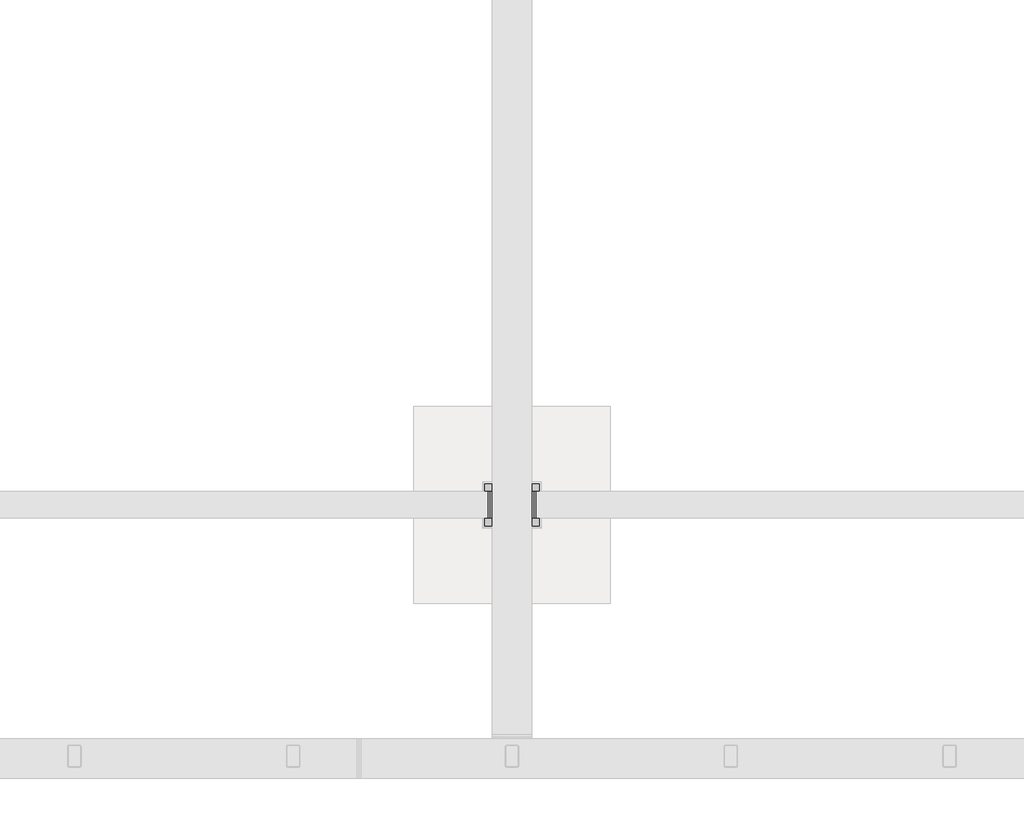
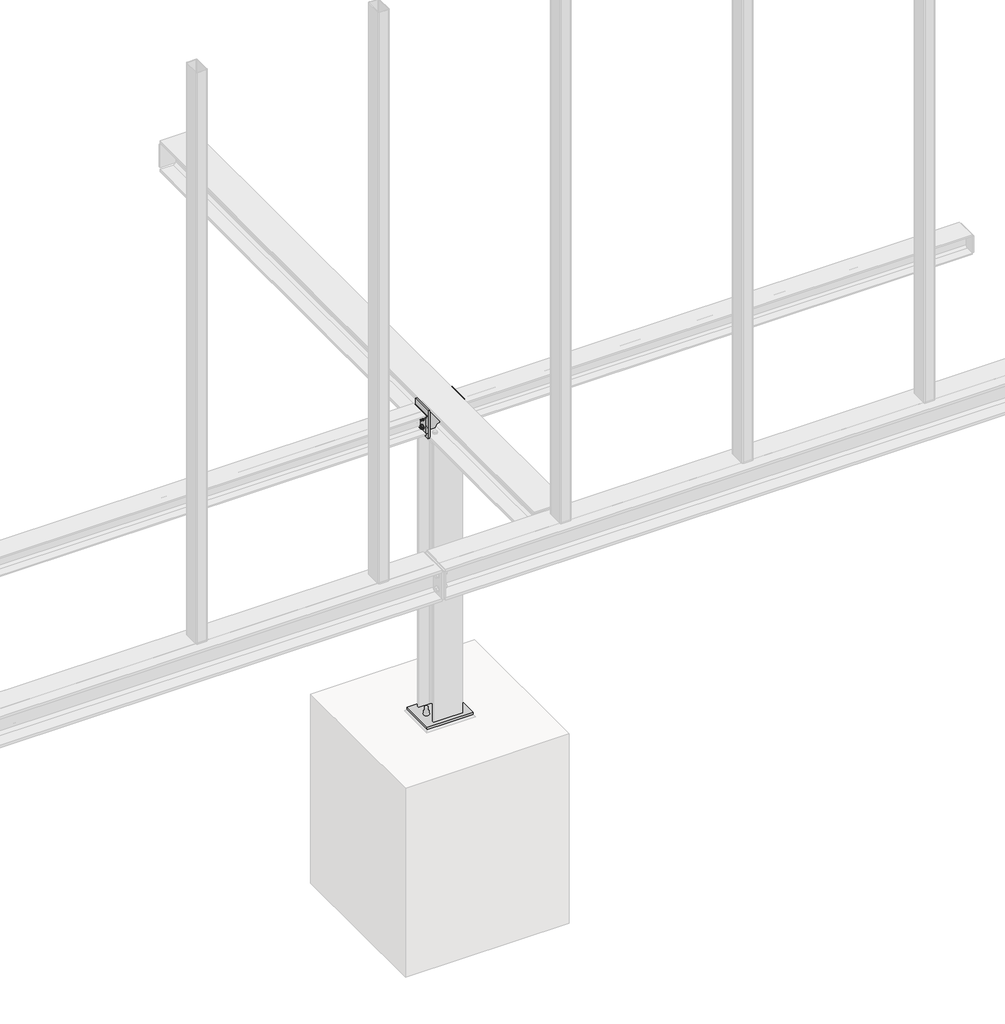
# One storey, part 10 of 31: 10 proxies.
"""IFC4 building model written with IfcOpenShell, lengths in millimetres."""

import ifcopenshell
import ifcopenshell.guid

model = None  # the IFC model being written
_history = None  # IfcOwnerHistory: only IFC2X3 demands one
_inside = {}  # id of a spatial element -> (the spatial element, [elements in it])
_under = {}  # id of a project, library or spatial element -> (it, [spatial elements below it])
_declared = {}  # id of a project -> (the project, [libraries it declares])
_typed = {}  # id of a type object -> (the type object, [elements of that type])
_made_of = {}  # id of a material, layer set ... -> (it, [elements and type objects made of it])


def new_model(schema):
    """Start an empty IFC model of exactly this schema.

    Asked for "IFC4X3", IfcOpenShell would pick the latest addendum, in which some entities
    have other attributes; the version numbers below select the first issue.
    IFC2X3 requires an IfcOwnerHistory on every rooted entity: one is made here for all.
    """
    global model, _history
    if schema == "IFC4X3":
        model = ifcopenshell.file(schema_version=(4, 3, 0, 0))
    else:
        model = ifcopenshell.file(schema=schema)
    _inside.clear()
    _under.clear()
    _declared.clear()
    _typed.clear()
    _made_of.clear()
    _history = None
    if model.schema == "IFC2X3":
        org = make("IfcOrganization", Name="unknown")
        user = make(
            "IfcPersonAndOrganization",
            ThePerson=make("IfcPerson", FamilyName="unknown"),
            TheOrganization=org,
        )
        app = make(
            "IfcApplication",
            ApplicationDeveloper=org,
            Version="unknown",
            ApplicationFullName="unknown",
            ApplicationIdentifier="unknown",
        )
        _history = make(
            "IfcOwnerHistory",
            OwningUser=user,
            OwningApplication=app,
            ChangeAction="ADDED",
            CreationDate=0,
        )
    return model


def make(cls, **values):
    """One entity of the class cls with the attributes given. An attribute that is None is left unset."""
    return model.create_entity(
        cls, **{name: value for name, value in values.items() if value is not None}
    )


def rooted(cls, **values):
    """An entity with a GlobalId (a new one), such as an element, a storey or a relation."""
    return make(cls, GlobalId=ifcopenshell.guid.new(), OwnerHistory=_history, **values)


def si_unit(unit_type, name, prefix=None):
    """IfcSIUnit, for example si_unit("LENGTHUNIT", "METRE", prefix="MILLI")."""
    return make("IfcSIUnit", UnitType=unit_type, Prefix=prefix, Name=name)


def assignment(units):
    """IfcUnitAssignment: the units of a project."""
    return None if units is None else make("IfcUnitAssignment", Units=units)


def point(xyz):
    """IfcCartesianPoint."""
    return None if xyz is None else make("IfcCartesianPoint", Coordinates=xyz)


def direction(xyz):
    """IfcDirection."""
    return None if xyz is None else make("IfcDirection", DirectionRatios=xyz)


def frame(location, z_axis=None, x_axis=None):
    """IfcAxis2Placement3D, a coordinate frame: its origin and axes. An axis left out is left unset."""
    return make(
        "IfcAxis2Placement3D",
        Location=point(location),
        Axis=direction(z_axis),
        RefDirection=direction(x_axis),
    )


def frame_2d(location, x_axis=None):
    """IfcAxis2Placement2D, a coordinate frame in the plane: its origin and x axis."""
    return make(
        "IfcAxis2Placement2D", Location=point(location), RefDirection=direction(x_axis)
    )


def origin():
    """The frame at (0, 0, 0) with its axes left unset."""
    return frame((0.0, 0.0, 0.0))


def place(relative_to, where):
    """IfcLocalPlacement: puts the frame where relative to a parent placement (None: the world)."""
    return make(
        "IfcLocalPlacement", PlacementRelTo=relative_to, RelativePlacement=where
    )


def context(
    kind, dimensions, precision=None, world=None, true_north=None, identifier=None
):
    """IfcGeometricRepresentationContext, for example the 3D "Model" context."""
    return make(
        "IfcGeometricRepresentationContext",
        ContextIdentifier=identifier,
        ContextType=kind,
        CoordinateSpaceDimension=dimensions,
        Precision=precision,
        WorldCoordinateSystem=world,
        TrueNorth=true_north,
    )


def project(units=None, contexts=None):
    """IfcProject with its units and contexts."""
    return rooted(
        "IfcProject",
        Name="project",
        RepresentationContexts=contexts,
        UnitsInContext=assignment(units),
    )


def spatial(cls, under=None, at=None, **own):
    """A site, building, storey or space (cls), placed at a placement, below another one or the project."""
    s = rooted(cls, ObjectPlacement=at, **own)
    if under is not None:
        _under.setdefault(under.id(), (under, []))[1].append(s)
    return s


def polyline(points):
    """IfcPolyline through the points."""
    return make("IfcPolyline", Points=[point(p) for p in points])


def circle_curve(where, radius):
    """IfcCircle in the frame where."""
    return make("IfcCircle", Position=where, Radius=radius)


def trimmed(basis, trim1, trim2, sense, master):
    """IfcTrimmedCurve: the piece of a basis curve between two trims."""
    return make(
        "IfcTrimmedCurve",
        BasisCurve=basis,
        Trim1=trim1,
        Trim2=trim2,
        SenseAgreement=sense,
        MasterRepresentation=master,
    )


def segment(curve, same_sense, transition):
    """IfcCompositeCurveSegment."""
    return make(
        "IfcCompositeCurveSegment",
        Transition=transition,
        SameSense=same_sense,
        ParentCurve=curve,
    )


def composite_curve(segments, self_intersect=None):
    """IfcCompositeCurve: segments joined end to end."""
    return make("IfcCompositeCurve", Segments=segments, SelfIntersect=self_intersect)


def outline(outer, holes=None, kind="AREA"):
    """IfcArbitraryClosedProfileDef: a profile drawn as a closed curve; with holes, ...WithVoids."""
    if holes is None:
        return make("IfcArbitraryClosedProfileDef", ProfileType=kind, OuterCurve=outer)
    return make(
        "IfcArbitraryProfileDefWithVoids",
        ProfileType=kind,
        OuterCurve=outer,
        InnerCurves=holes,
    )


def extrude(swept, where, along, depth):
    """IfcExtrudedAreaSolid: the profile swept, set in the frame where, extruded along a direction by depth."""
    return make(
        "IfcExtrudedAreaSolid",
        SweptArea=swept,
        Position=where,
        ExtrudedDirection=direction(along),
        Depth=depth,
    )


def shape(context_of_items, identifier, shape_type, items):
    """IfcShapeRepresentation: the items that make up one representation, for example the "Body"."""
    return make(
        "IfcShapeRepresentation",
        ContextOfItems=context_of_items,
        RepresentationIdentifier=identifier,
        RepresentationType=shape_type,
        Items=items,
    )


def made_of(thing, what):
    """Note that an element or type object is made of a material, layer set ...; save() writes the relation."""
    if what is not None:
        _made_of.setdefault(what.id(), (what, []))[1].append(thing)
    return thing


def element(
    cls,
    number,
    at=None,
    inside=None,
    cuts=None,
    type_object=None,
    material=None,
    context=None,
    identifier="Body",
    shape_type=None,
    held_by="IfcProductDefinitionShape",
    body=None,
    shapes=None,
    **own,
):
    """One element of the class cls, such as IfcWall. Its Tag is "e" and its number.

    at: its placement. inside: the storey or other place that contains it. cuts: it is an
    opening in that element (IfcRelVoidsElement). A single representation is given by context,
    identifier, shape_type and body (its items); several are given by shapes. held_by: the class
    of the entity that holds the representations. save() writes the other relations.
    """
    e = rooted(cls, Tag="e%d" % number, ObjectPlacement=at, **own)
    if body is not None:
        shapes = [shape(context, identifier, shape_type, body)]
    if shapes is not None:
        e.Representation = make(held_by, Representations=shapes)
    if inside is not None:
        _inside.setdefault(inside.id(), (inside, []))[1].append(e)
    if cuts is not None:
        rooted(
            "IfcRelVoidsElement", RelatingBuildingElement=cuts, RelatedOpeningElement=e
        )
    if type_object is not None:
        _typed.setdefault(type_object.id(), (type_object, []))[1].append(e)
    return made_of(e, material)


def aggregate(whole, parts):
    """IfcRelAggregates: a whole, such as a stair, and the parts it consists of."""
    return rooted("IfcRelAggregates", RelatingObject=whole, RelatedObjects=parts)


def save(model, path):
    """Write the relations noted so far, then the file.

    IfcRelAggregates (storeys below a building ...), IfcRelContainedInSpatialStructure (elements
    in a storey), IfcRelDefinesByType, IfcRelAssociatesMaterial and IfcRelDeclares: one each for
    every whole, place, type object, material and project.
    """
    for whole, parts in _under.values():
        aggregate(whole, parts)
    for where, things in _inside.values():
        rooted(
            "IfcRelContainedInSpatialStructure",
            RelatedElements=things,
            RelatingStructure=where,
        )
    for kind, things in _typed.values():
        rooted("IfcRelDefinesByType", RelatedObjects=things, RelatingType=kind)
    for what, things in _made_of.values():
        rooted("IfcRelAssociatesMaterial", RelatedObjects=things, RelatingMaterial=what)
    for by, libraries in _declared.values():
        rooted("IfcRelDeclares", RelatingContext=by, RelatedDefinitions=libraries)
    model.write(path)


model = new_model("IFC4")

# Units and contexts
model_context = context("Model", 3, world=origin())
ifc_project = project(units=[si_unit("LENGTHUNIT", "METRE", prefix="MILLI")], contexts=[model_context])

# Site, building, storey
site = spatial("IfcSite", under=ifc_project)
building = spatial("IfcBuilding", under=site)
storey = spatial("IfcBuildingStorey", under=building, Name="Základy", Elevation=-1200.0)

# Proxies
placement = place(None, origin())
element("IfcBuildingElementProxy", 1, Name="PLECH", ObjectType="PLECH", at=placement, inside=storey, context=model_context, shape_type="SweptSolid", body=[
    extrude(outline(polyline([(8940.0, 1200.0), (8940.0, 1320.0), (8950.0, 1320.0), (8950.0, 1200.0), (8940.0, 1200.0)])), frame((0.0, 0.0, -299.0), z_axis=(0.0, 0.0, 1.0), x_axis=(1.0, 0.0, 0.0)), (0.0, 0.0, 1.0), 98.0),
])
element("IfcBuildingElementProxy", 2, Name="PLECH", ObjectType="PLECH", at=placement, inside=storey, context=model_context, shape_type="SweptSolid", body=[
    extrude(outline(polyline([(9150.0, 1200.0), (9150.0, 1320.0), (9160.0, 1320.0), (9160.0, 1200.0), (9150.0, 1200.0)])), frame((0.0, 0.0, -299.0), z_axis=(0.0, 0.0, 1.0), x_axis=(1.0, 0.0, 0.0)), (0.0, 0.0, 1.0), 98.0),
])
element("IfcBuildingElementProxy", 3, Name="PLECH", ObjectType="PLECH", at=placement, inside=storey, context=model_context, shape_type="SweptSolid", body=[
    extrude(outline(polyline([(8950.0, 1200.0), (8950.0, 1320.0), (8960.0, 1320.0), (8960.0, 1200.0), (8950.0, 1200.0)])), frame((0.0, 0.0, -332.0), z_axis=(0.0, 0.0, 1.0), x_axis=(1.0, 0.0, 0.0)), (0.0, 0.0, 1.0), 164.0),
])
element("IfcBuildingElementProxy", 4, Name="PLECH", ObjectType="PLECH", at=placement, inside=storey, context=model_context, shape_type="SweptSolid", body=[
    extrude(outline(polyline([(9140.0, 1200.0), (9140.0, 1320.0), (9150.0, 1320.0), (9150.0, 1200.0), (9140.0, 1200.0)])), frame((0.0, 0.0, -332.0), z_axis=(0.0, 0.0, 1.0), x_axis=(1.0, 0.0, 0.0)), (0.0, 0.0, 1.0), 164.0),
])
element("IfcBuildingElementProxy", 5, Name="PLECH", ObjectType="PLECH", at=placement, inside=storey, context=model_context, shape_type="SweptSolid", body=[
    extrude(outline(composite_curve([segment(polyline([(-174.0, 9140.0), (-174.0, 9079.5)]), True, "CONTINUOUS"), segment(trimmed(circle_curve(frame_2d((-174.0, 9054.5)), 25.0), [point((-174.0, 9079.5))], [point((-199.0, 9054.5))], True, "CARTESIAN"), True, "CONTINUOUS"), segment(polyline([(-199.0, 9054.5), (-301.0, 9054.5)]), True, "CONTINUOUS"), segment(trimmed(circle_curve(frame_2d((-326.0, 9054.5)), 25.0), [point((-301.0, 9054.5))], [point((-326.0, 9079.5))], True, "CARTESIAN"), True, "CONTINUOUS"), segment(polyline([(-326.0, 9079.5), (-326.0, 9140.0), (-174.0, 9140.0)]), True, "CONTINUOUS")], self_intersect=False)), frame((0.0, 1256.0, 0.0), z_axis=(0.0, 1.0, 0.0), x_axis=(0.0, 0.0, 1.0)), (0.0, 0.0, 1.0), 8.0),
])
element("IfcBuildingElementProxy", 6, Name="PLECH", ObjectType="PLECH", at=placement, inside=storey, context=model_context, shape_type="SweptSolid", body=[
    extrude(outline(composite_curve([segment(polyline([(-174.0, 8960.0), (-326.0, 8960.0), (-326.0, 9020.5)]), True, "CONTINUOUS"), segment(trimmed(circle_curve(frame_2d((-326.0, 9045.5)), 25.0), [point((-326.0, 9020.5))], [point((-301.0, 9045.5))], True, "CARTESIAN"), True, "CONTINUOUS"), segment(polyline([(-301.0, 9045.5), (-199.0, 9045.5)]), True, "CONTINUOUS"), segment(trimmed(circle_curve(frame_2d((-174.0, 9045.5)), 25.0), [point((-199.0, 9045.5))], [point((-174.0, 9020.5))], True, "CARTESIAN"), True, "CONTINUOUS"), segment(polyline([(-174.0, 9020.5), (-174.0, 8960.0)]), True, "CONTINUOUS")], self_intersect=False)), frame((0.0, 1256.0, 0.0), z_axis=(0.0, 1.0, 0.0), x_axis=(0.0, 0.0, 1.0)), (0.0, 0.0, 1.0), 8.0),
])
element("IfcBuildingElementProxy", 7, Name="PLECH", ObjectType="PLECH", at=placement, inside=storey, context=model_context, shape_type="SweptSolid", body=[
    extrude(outline(polyline([(9175.0, 1356.0), (9175.0, 1164.0), (8925.0, 1164.0), (8925.0, 1356.0), (9175.0, 1356.0)])), frame((0.0, 0.0, -1990.0), z_axis=(0.0, 0.0, 1.0), x_axis=(1.0, 0.0, 0.0)), (0.0, 0.0, 1.0), 15.0),
])
element("IfcBuildingElementProxy", 8, Name="Bolt assembly", ObjectType="Bolt assembly", at=placement, inside=storey, context=model_context, shape_type="SweptSolid", body=[
    extrude(outline(composite_curve([segment(trimmed(circle_curve(frame_2d((1230.0, -225.0)), 6.5), [point((1230.0, -231.5))], [point((1230.0, -218.5))], False, "CARTESIAN"), True, "CONTINUOUS"), segment(trimmed(circle_curve(frame_2d((1230.0, -225.0)), 6.5), [point((1230.0, -218.5))], [point((1230.0, -231.5))], False, "CARTESIAN"), True, "CONTINUOUS")], self_intersect=False)), frame((8949.9, 0.0, 0.0), z_axis=(1.0, 0.0, 0.0), x_axis=(0.0, 1.0, 0.0)), (0.0, 0.0, 1.0), 10.0),
    extrude(outline(polyline([(1230.0, -235.3923048), (1221.0, -230.1961524), (1221.0, -219.8038476), (1230.0, -214.6076952), (1239.0, -219.8038476), (1239.0, -230.1961524), (1230.0, -235.3923048)])), frame((8962.5, 0.0, 0.0), z_axis=(1.0, 0.0, 0.0), x_axis=(0.0, 1.0, 0.0)), (0.0, 0.0, 1.0), 7.5),
    extrude(outline(composite_curve([segment(trimmed(circle_curve(frame_2d((1230.0, -225.0)), 6.0), [point((1230.0, -231.0))], [point((1230.0, -219.0))], False, "CARTESIAN"), True, "CONTINUOUS"), segment(trimmed(circle_curve(frame_2d((1230.0, -225.0)), 6.0), [point((1230.0, -219.0))], [point((1230.0, -231.0))], False, "CARTESIAN"), True, "CONTINUOUS")], self_intersect=False)), frame((8922.5, 0.0, 0.0), z_axis=(1.0, 0.0, 0.0), x_axis=(0.0, 1.0, 0.0)), (0.0, 0.0, 1.0), 40.0),
    extrude(outline(composite_curve([segment(trimmed(circle_curve(frame_2d((1230.0, -225.0)), 12.0), [point((1230.0, -237.0))], [point((1230.0, -213.0))], False, "CARTESIAN"), True, "CONTINUOUS"), segment(trimmed(circle_curve(frame_2d((1230.0, -225.0)), 12.0), [point((1230.0, -213.0))], [point((1230.0, -237.0))], False, "CARTESIAN"), True, "CONTINUOUS")], self_intersect=False)), frame((8960.0, 0.0, 0.0), z_axis=(1.0, 0.0, 0.0), x_axis=(0.0, 1.0, 0.0)), (0.0, 0.0, 1.0), 2.5),
    extrude(outline(composite_curve([segment(trimmed(circle_curve(frame_2d((1230.0, -225.0)), 12.0), [point((1230.0, -237.0))], [point((1230.0, -213.0))], False, "CARTESIAN"), True, "CONTINUOUS"), segment(trimmed(circle_curve(frame_2d((1230.0, -225.0)), 12.0), [point((1230.0, -213.0))], [point((1230.0, -237.0))], False, "CARTESIAN"), True, "CONTINUOUS")], self_intersect=False)), frame((8937.5, 0.0, 0.0), z_axis=(1.0, 0.0, 0.0), x_axis=(0.0, 1.0, 0.0)), (0.0, 0.0, 1.0), 2.5),
    extrude(outline(polyline([(1230.0, -235.9696551), (1220.5, -230.4848276), (1220.5, -219.5151724), (1230.0, -214.0303449), (1239.5, -219.5151724), (1239.5, -230.4848276), (1230.0, -235.9696551)])), frame((8927.5, 0.0, 0.0), z_axis=(1.0, 0.0, 0.0), x_axis=(0.0, 1.0, 0.0)), (0.0, 0.0, 1.0), 10.0),
    extrude(outline(composite_curve([segment(trimmed(circle_curve(frame_2d((1230.0, -225.0)), 6.5), [point((1230.0, -231.5))], [point((1230.0, -218.5))], False, "CARTESIAN"), True, "CONTINUOUS"), segment(trimmed(circle_curve(frame_2d((1230.0, -225.0)), 6.5), [point((1230.0, -218.5))], [point((1230.0, -231.5))], False, "CARTESIAN"), True, "CONTINUOUS")], self_intersect=False)), frame((8940.0, 0.0, 0.0), z_axis=(1.0, 0.0, 0.0), x_axis=(0.0, 1.0, 0.0)), (0.0, 0.0, 1.0), 10.1),
    extrude(outline(composite_curve([segment(trimmed(circle_curve(frame_2d((1230.0, -275.0)), 6.5), [point((1230.0, -281.5))], [point((1230.0, -268.5))], False, "CARTESIAN"), True, "CONTINUOUS"), segment(trimmed(circle_curve(frame_2d((1230.0, -275.0)), 6.5), [point((1230.0, -268.5))], [point((1230.0, -281.5))], False, "CARTESIAN"), True, "CONTINUOUS")], self_intersect=False)), frame((8949.9, 0.0, 0.0), z_axis=(1.0, 0.0, 0.0), x_axis=(0.0, 1.0, 0.0)), (0.0, 0.0, 1.0), 10.0),
    extrude(outline(polyline([(1230.0, -285.3923048), (1221.0, -280.1961524), (1221.0, -269.8038476), (1230.0, -264.6076952), (1239.0, -269.8038476), (1239.0, -280.1961524), (1230.0, -285.3923048)])), frame((8962.5, 0.0, 0.0), z_axis=(1.0, 0.0, 0.0), x_axis=(0.0, 1.0, 0.0)), (0.0, 0.0, 1.0), 7.5),
    extrude(outline(composite_curve([segment(trimmed(circle_curve(frame_2d((1230.0, -275.0)), 6.0), [point((1230.0, -281.0))], [point((1230.0, -269.0))], False, "CARTESIAN"), True, "CONTINUOUS"), segment(trimmed(circle_curve(frame_2d((1230.0, -275.0)), 6.0), [point((1230.0, -269.0))], [point((1230.0, -281.0))], False, "CARTESIAN"), True, "CONTINUOUS")], self_intersect=False)), frame((8922.5, 0.0, 0.0), z_axis=(1.0, 0.0, 0.0), x_axis=(0.0, 1.0, 0.0)), (0.0, 0.0, 1.0), 40.0),
    extrude(outline(composite_curve([segment(trimmed(circle_curve(frame_2d((1230.0, -275.0)), 12.0), [point((1230.0, -287.0))], [point((1230.0, -263.0))], False, "CARTESIAN"), True, "CONTINUOUS"), segment(trimmed(circle_curve(frame_2d((1230.0, -275.0)), 12.0), [point((1230.0, -263.0))], [point((1230.0, -287.0))], False, "CARTESIAN"), True, "CONTINUOUS")], self_intersect=False)), frame((8960.0, 0.0, 0.0), z_axis=(1.0, 0.0, 0.0), x_axis=(0.0, 1.0, 0.0)), (0.0, 0.0, 1.0), 2.5),
    extrude(outline(composite_curve([segment(trimmed(circle_curve(frame_2d((1230.0, -275.0)), 12.0), [point((1230.0, -287.0))], [point((1230.0, -263.0))], False, "CARTESIAN"), True, "CONTINUOUS"), segment(trimmed(circle_curve(frame_2d((1230.0, -275.0)), 12.0), [point((1230.0, -263.0))], [point((1230.0, -287.0))], False, "CARTESIAN"), True, "CONTINUOUS")], self_intersect=False)), frame((8937.5, 0.0, 0.0), z_axis=(1.0, 0.0, 0.0), x_axis=(0.0, 1.0, 0.0)), (0.0, 0.0, 1.0), 2.5),
    extrude(outline(polyline([(1230.0, -285.9696551), (1220.5, -280.4848276), (1220.5, -269.5151724), (1230.0, -264.0303449), (1239.5, -269.5151724), (1239.5, -280.4848276), (1230.0, -285.9696551)])), frame((8927.5, 0.0, 0.0), z_axis=(1.0, 0.0, 0.0), x_axis=(0.0, 1.0, 0.0)), (0.0, 0.0, 1.0), 10.0),
    extrude(outline(composite_curve([segment(trimmed(circle_curve(frame_2d((1230.0, -275.0)), 6.5), [point((1230.0, -281.5))], [point((1230.0, -268.5))], False, "CARTESIAN"), True, "CONTINUOUS"), segment(trimmed(circle_curve(frame_2d((1230.0, -275.0)), 6.5), [point((1230.0, -268.5))], [point((1230.0, -281.5))], False, "CARTESIAN"), True, "CONTINUOUS")], self_intersect=False)), frame((8940.0, 0.0, 0.0), z_axis=(1.0, 0.0, 0.0), x_axis=(0.0, 1.0, 0.0)), (0.0, 0.0, 1.0), 10.1),
    extrude(outline(composite_curve([segment(trimmed(circle_curve(frame_2d((1290.0, -225.0)), 6.5), [point((1290.0, -231.5))], [point((1290.0, -218.5))], False, "CARTESIAN"), True, "CONTINUOUS"), segment(trimmed(circle_curve(frame_2d((1290.0, -225.0)), 6.5), [point((1290.0, -218.5))], [point((1290.0, -231.5))], False, "CARTESIAN"), True, "CONTINUOUS")], self_intersect=False)), frame((8949.9, 0.0, 0.0), z_axis=(1.0, 0.0, 0.0), x_axis=(0.0, 1.0, 0.0)), (0.0, 0.0, 1.0), 10.0),
    extrude(outline(polyline([(1290.0, -235.3923048), (1281.0, -230.1961524), (1281.0, -219.8038476), (1290.0, -214.6076952), (1299.0, -219.8038476), (1299.0, -230.1961524), (1290.0, -235.3923048)])), frame((8962.5, 0.0, 0.0), z_axis=(1.0, 0.0, 0.0), x_axis=(0.0, 1.0, 0.0)), (0.0, 0.0, 1.0), 7.5),
    extrude(outline(composite_curve([segment(trimmed(circle_curve(frame_2d((1290.0, -225.0)), 6.0), [point((1290.0, -231.0))], [point((1290.0, -219.0))], False, "CARTESIAN"), True, "CONTINUOUS"), segment(trimmed(circle_curve(frame_2d((1290.0, -225.0)), 6.0), [point((1290.0, -219.0))], [point((1290.0, -231.0))], False, "CARTESIAN"), True, "CONTINUOUS")], self_intersect=False)), frame((8922.5, 0.0, 0.0), z_axis=(1.0, 0.0, 0.0), x_axis=(0.0, 1.0, 0.0)), (0.0, 0.0, 1.0), 40.0),
    extrude(outline(composite_curve([segment(trimmed(circle_curve(frame_2d((1290.0, -225.0)), 12.0), [point((1290.0, -237.0))], [point((1290.0, -213.0))], False, "CARTESIAN"), True, "CONTINUOUS"), segment(trimmed(circle_curve(frame_2d((1290.0, -225.0)), 12.0), [point((1290.0, -213.0))], [point((1290.0, -237.0))], False, "CARTESIAN"), True, "CONTINUOUS")], self_intersect=False)), frame((8960.0, 0.0, 0.0), z_axis=(1.0, 0.0, 0.0), x_axis=(0.0, 1.0, 0.0)), (0.0, 0.0, 1.0), 2.5),
    extrude(outline(composite_curve([segment(trimmed(circle_curve(frame_2d((1290.0, -225.0)), 12.0), [point((1290.0, -237.0))], [point((1290.0, -213.0))], False, "CARTESIAN"), True, "CONTINUOUS"), segment(trimmed(circle_curve(frame_2d((1290.0, -225.0)), 12.0), [point((1290.0, -213.0))], [point((1290.0, -237.0))], False, "CARTESIAN"), True, "CONTINUOUS")], self_intersect=False)), frame((8937.5, 0.0, 0.0), z_axis=(1.0, 0.0, 0.0), x_axis=(0.0, 1.0, 0.0)), (0.0, 0.0, 1.0), 2.5),
    extrude(outline(polyline([(1290.0, -235.9696551), (1280.5, -230.4848276), (1280.5, -219.5151724), (1290.0, -214.0303449), (1299.5, -219.5151724), (1299.5, -230.4848276), (1290.0, -235.9696551)])), frame((8927.5, 0.0, 0.0), z_axis=(1.0, 0.0, 0.0), x_axis=(0.0, 1.0, 0.0)), (0.0, 0.0, 1.0), 10.0),
    extrude(outline(composite_curve([segment(trimmed(circle_curve(frame_2d((1290.0, -225.0)), 6.5), [point((1290.0, -231.5))], [point((1290.0, -218.5))], False, "CARTESIAN"), True, "CONTINUOUS"), segment(trimmed(circle_curve(frame_2d((1290.0, -225.0)), 6.5), [point((1290.0, -218.5))], [point((1290.0, -231.5))], False, "CARTESIAN"), True, "CONTINUOUS")], self_intersect=False)), frame((8940.0, 0.0, 0.0), z_axis=(1.0, 0.0, 0.0), x_axis=(0.0, 1.0, 0.0)), (0.0, 0.0, 1.0), 10.1),
    extrude(outline(composite_curve([segment(trimmed(circle_curve(frame_2d((1290.0, -275.0)), 6.5), [point((1290.0, -281.5))], [point((1290.0, -268.5))], False, "CARTESIAN"), True, "CONTINUOUS"), segment(trimmed(circle_curve(frame_2d((1290.0, -275.0)), 6.5), [point((1290.0, -268.5))], [point((1290.0, -281.5))], False, "CARTESIAN"), True, "CONTINUOUS")], self_intersect=False)), frame((8949.9, 0.0, 0.0), z_axis=(1.0, 0.0, 0.0), x_axis=(0.0, 1.0, 0.0)), (0.0, 0.0, 1.0), 10.0),
    extrude(outline(polyline([(1290.0, -285.3923048), (1281.0, -280.1961524), (1281.0, -269.8038476), (1290.0, -264.6076952), (1299.0, -269.8038476), (1299.0, -280.1961524), (1290.0, -285.3923048)])), frame((8962.5, 0.0, 0.0), z_axis=(1.0, 0.0, 0.0), x_axis=(0.0, 1.0, 0.0)), (0.0, 0.0, 1.0), 7.5),
    extrude(outline(composite_curve([segment(trimmed(circle_curve(frame_2d((1290.0, -275.0)), 6.0), [point((1290.0, -281.0))], [point((1290.0, -269.0))], False, "CARTESIAN"), True, "CONTINUOUS"), segment(trimmed(circle_curve(frame_2d((1290.0, -275.0)), 6.0), [point((1290.0, -269.0))], [point((1290.0, -281.0))], False, "CARTESIAN"), True, "CONTINUOUS")], self_intersect=False)), frame((8922.5, 0.0, 0.0), z_axis=(1.0, 0.0, 0.0), x_axis=(0.0, 1.0, 0.0)), (0.0, 0.0, 1.0), 40.0),
    extrude(outline(composite_curve([segment(trimmed(circle_curve(frame_2d((1290.0, -275.0)), 12.0), [point((1290.0, -287.0))], [point((1290.0, -263.0))], False, "CARTESIAN"), True, "CONTINUOUS"), segment(trimmed(circle_curve(frame_2d((1290.0, -275.0)), 12.0), [point((1290.0, -263.0))], [point((1290.0, -287.0))], False, "CARTESIAN"), True, "CONTINUOUS")], self_intersect=False)), frame((8960.0, 0.0, 0.0), z_axis=(1.0, 0.0, 0.0), x_axis=(0.0, 1.0, 0.0)), (0.0, 0.0, 1.0), 2.5),
    extrude(outline(composite_curve([segment(trimmed(circle_curve(frame_2d((1290.0, -275.0)), 12.0), [point((1290.0, -287.0))], [point((1290.0, -263.0))], False, "CARTESIAN"), True, "CONTINUOUS"), segment(trimmed(circle_curve(frame_2d((1290.0, -275.0)), 12.0), [point((1290.0, -263.0))], [point((1290.0, -287.0))], False, "CARTESIAN"), True, "CONTINUOUS")], self_intersect=False)), frame((8937.5, 0.0, 0.0), z_axis=(1.0, 0.0, 0.0), x_axis=(0.0, 1.0, 0.0)), (0.0, 0.0, 1.0), 2.5),
    extrude(outline(polyline([(1290.0, -285.9696551), (1280.5, -280.4848276), (1280.5, -269.5151724), (1290.0, -264.0303449), (1299.5, -269.5151724), (1299.5, -280.4848276), (1290.0, -285.9696551)])), frame((8927.5, 0.0, 0.0), z_axis=(1.0, 0.0, 0.0), x_axis=(0.0, 1.0, 0.0)), (0.0, 0.0, 1.0), 10.0),
    extrude(outline(composite_curve([segment(trimmed(circle_curve(frame_2d((1290.0, -275.0)), 6.5), [point((1290.0, -281.5))], [point((1290.0, -268.5))], False, "CARTESIAN"), True, "CONTINUOUS"), segment(trimmed(circle_curve(frame_2d((1290.0, -275.0)), 6.5), [point((1290.0, -268.5))], [point((1290.0, -281.5))], False, "CARTESIAN"), True, "CONTINUOUS")], self_intersect=False)), frame((8940.0, 0.0, 0.0), z_axis=(1.0, 0.0, 0.0), x_axis=(0.0, 1.0, 0.0)), (0.0, 0.0, 1.0), 10.1),
])
element("IfcBuildingElementProxy", 9, Name="Bolt assembly", ObjectType="Bolt assembly", at=placement, inside=storey, context=model_context, shape_type="SweptSolid", body=[
    extrude(outline(composite_curve([segment(trimmed(circle_curve(frame_2d((1230.0, -225.0)), 6.5), [point((1230.0, -231.5))], [point((1230.0, -218.5))], False, "CARTESIAN"), True, "CONTINUOUS"), segment(trimmed(circle_curve(frame_2d((1230.0, -225.0)), 6.5), [point((1230.0, -218.5))], [point((1230.0, -231.5))], False, "CARTESIAN"), True, "CONTINUOUS")], self_intersect=False)), frame((9140.1, 0.0, 0.0), z_axis=(1.0, 0.0, 0.0), x_axis=(0.0, 1.0, 0.0)), (0.0, 0.0, 1.0), 10.0),
    extrude(outline(polyline([(1230.0, -235.3923048), (1221.0, -230.1961524), (1221.0, -219.8038476), (1230.0, -214.6076952), (1239.0, -219.8038476), (1239.0, -230.1961524), (1230.0, -235.3923048)])), frame((9130.0, 0.0, 0.0), z_axis=(1.0, 0.0, 0.0), x_axis=(0.0, 1.0, 0.0)), (0.0, 0.0, 1.0), 7.5),
    extrude(outline(composite_curve([segment(trimmed(circle_curve(frame_2d((1230.0, -225.0)), 6.0), [point((1230.0, -231.0))], [point((1230.0, -219.0))], False, "CARTESIAN"), True, "CONTINUOUS"), segment(trimmed(circle_curve(frame_2d((1230.0, -225.0)), 6.0), [point((1230.0, -219.0))], [point((1230.0, -231.0))], False, "CARTESIAN"), True, "CONTINUOUS")], self_intersect=False)), frame((9137.5, 0.0, 0.0), z_axis=(1.0, 0.0, 0.0), x_axis=(0.0, 1.0, 0.0)), (0.0, 0.0, 1.0), 40.0),
    extrude(outline(composite_curve([segment(trimmed(circle_curve(frame_2d((1230.0, -225.0)), 12.0), [point((1230.0, -237.0))], [point((1230.0, -213.0))], False, "CARTESIAN"), True, "CONTINUOUS"), segment(trimmed(circle_curve(frame_2d((1230.0, -225.0)), 12.0), [point((1230.0, -213.0))], [point((1230.0, -237.0))], False, "CARTESIAN"), True, "CONTINUOUS")], self_intersect=False)), frame((9137.5, 0.0, 0.0), z_axis=(1.0, 0.0, 0.0), x_axis=(0.0, 1.0, 0.0)), (0.0, 0.0, 1.0), 2.5),
    extrude(outline(composite_curve([segment(trimmed(circle_curve(frame_2d((1230.0, -225.0)), 12.0), [point((1230.0, -237.0))], [point((1230.0, -213.0))], False, "CARTESIAN"), True, "CONTINUOUS"), segment(trimmed(circle_curve(frame_2d((1230.0, -225.0)), 12.0), [point((1230.0, -213.0))], [point((1230.0, -237.0))], False, "CARTESIAN"), True, "CONTINUOUS")], self_intersect=False)), frame((9160.0, 0.0, 0.0), z_axis=(1.0, 0.0, 0.0), x_axis=(0.0, 1.0, 0.0)), (0.0, 0.0, 1.0), 2.5),
    extrude(outline(polyline([(1230.0, -235.9696551), (1220.5, -230.4848276), (1220.5, -219.5151724), (1230.0, -214.0303449), (1239.5, -219.5151724), (1239.5, -230.4848276), (1230.0, -235.9696551)])), frame((9162.5, 0.0, 0.0), z_axis=(1.0, 0.0, 0.0), x_axis=(0.0, 1.0, 0.0)), (0.0, 0.0, 1.0), 10.0),
    extrude(outline(composite_curve([segment(trimmed(circle_curve(frame_2d((1230.0, -225.0)), 6.5), [point((1230.0, -231.5))], [point((1230.0, -218.5))], False, "CARTESIAN"), True, "CONTINUOUS"), segment(trimmed(circle_curve(frame_2d((1230.0, -225.0)), 6.5), [point((1230.0, -218.5))], [point((1230.0, -231.5))], False, "CARTESIAN"), True, "CONTINUOUS")], self_intersect=False)), frame((9149.9, 0.0, 0.0), z_axis=(1.0, 0.0, 0.0), x_axis=(0.0, 1.0, 0.0)), (0.0, 0.0, 1.0), 10.1),
    extrude(outline(composite_curve([segment(trimmed(circle_curve(frame_2d((1230.0, -275.0)), 6.5), [point((1230.0, -281.5))], [point((1230.0, -268.5))], False, "CARTESIAN"), True, "CONTINUOUS"), segment(trimmed(circle_curve(frame_2d((1230.0, -275.0)), 6.5), [point((1230.0, -268.5))], [point((1230.0, -281.5))], False, "CARTESIAN"), True, "CONTINUOUS")], self_intersect=False)), frame((9140.1, 0.0, 0.0), z_axis=(1.0, 0.0, 0.0), x_axis=(0.0, 1.0, 0.0)), (0.0, 0.0, 1.0), 10.0),
    extrude(outline(polyline([(1230.0, -285.3923048), (1221.0, -280.1961524), (1221.0, -269.8038476), (1230.0, -264.6076952), (1239.0, -269.8038476), (1239.0, -280.1961524), (1230.0, -285.3923048)])), frame((9130.0, 0.0, 0.0), z_axis=(1.0, 0.0, 0.0), x_axis=(0.0, 1.0, 0.0)), (0.0, 0.0, 1.0), 7.5),
    extrude(outline(composite_curve([segment(trimmed(circle_curve(frame_2d((1230.0, -275.0)), 6.0), [point((1230.0, -281.0))], [point((1230.0, -269.0))], False, "CARTESIAN"), True, "CONTINUOUS"), segment(trimmed(circle_curve(frame_2d((1230.0, -275.0)), 6.0), [point((1230.0, -269.0))], [point((1230.0, -281.0))], False, "CARTESIAN"), True, "CONTINUOUS")], self_intersect=False)), frame((9137.5, 0.0, 0.0), z_axis=(1.0, 0.0, 0.0), x_axis=(0.0, 1.0, 0.0)), (0.0, 0.0, 1.0), 40.0),
    extrude(outline(composite_curve([segment(trimmed(circle_curve(frame_2d((1230.0, -275.0)), 12.0), [point((1230.0, -287.0))], [point((1230.0, -263.0))], False, "CARTESIAN"), True, "CONTINUOUS"), segment(trimmed(circle_curve(frame_2d((1230.0, -275.0)), 12.0), [point((1230.0, -263.0))], [point((1230.0, -287.0))], False, "CARTESIAN"), True, "CONTINUOUS")], self_intersect=False)), frame((9137.5, 0.0, 0.0), z_axis=(1.0, 0.0, 0.0), x_axis=(0.0, 1.0, 0.0)), (0.0, 0.0, 1.0), 2.5),
    extrude(outline(composite_curve([segment(trimmed(circle_curve(frame_2d((1230.0, -275.0)), 12.0), [point((1230.0, -287.0))], [point((1230.0, -263.0))], False, "CARTESIAN"), True, "CONTINUOUS"), segment(trimmed(circle_curve(frame_2d((1230.0, -275.0)), 12.0), [point((1230.0, -263.0))], [point((1230.0, -287.0))], False, "CARTESIAN"), True, "CONTINUOUS")], self_intersect=False)), frame((9160.0, 0.0, 0.0), z_axis=(1.0, 0.0, 0.0), x_axis=(0.0, 1.0, 0.0)), (0.0, 0.0, 1.0), 2.5),
    extrude(outline(polyline([(1230.0, -285.9696551), (1220.5, -280.4848276), (1220.5, -269.5151724), (1230.0, -264.0303449), (1239.5, -269.5151724), (1239.5, -280.4848276), (1230.0, -285.9696551)])), frame((9162.5, 0.0, 0.0), z_axis=(1.0, 0.0, 0.0), x_axis=(0.0, 1.0, 0.0)), (0.0, 0.0, 1.0), 10.0),
    extrude(outline(composite_curve([segment(trimmed(circle_curve(frame_2d((1230.0, -275.0)), 6.5), [point((1230.0, -281.5))], [point((1230.0, -268.5))], False, "CARTESIAN"), True, "CONTINUOUS"), segment(trimmed(circle_curve(frame_2d((1230.0, -275.0)), 6.5), [point((1230.0, -268.5))], [point((1230.0, -281.5))], False, "CARTESIAN"), True, "CONTINUOUS")], self_intersect=False)), frame((9149.9, 0.0, 0.0), z_axis=(1.0, 0.0, 0.0), x_axis=(0.0, 1.0, 0.0)), (0.0, 0.0, 1.0), 10.1),
    extrude(outline(composite_curve([segment(trimmed(circle_curve(frame_2d((1290.0, -225.0)), 6.5), [point((1290.0, -231.5))], [point((1290.0, -218.5))], False, "CARTESIAN"), True, "CONTINUOUS"), segment(trimmed(circle_curve(frame_2d((1290.0, -225.0)), 6.5), [point((1290.0, -218.5))], [point((1290.0, -231.5))], False, "CARTESIAN"), True, "CONTINUOUS")], self_intersect=False)), frame((9140.1, 0.0, 0.0), z_axis=(1.0, 0.0, 0.0), x_axis=(0.0, 1.0, 0.0)), (0.0, 0.0, 1.0), 10.0),
    extrude(outline(polyline([(1290.0, -235.3923048), (1281.0, -230.1961524), (1281.0, -219.8038476), (1290.0, -214.6076952), (1299.0, -219.8038476), (1299.0, -230.1961524), (1290.0, -235.3923048)])), frame((9130.0, 0.0, 0.0), z_axis=(1.0, 0.0, 0.0), x_axis=(0.0, 1.0, 0.0)), (0.0, 0.0, 1.0), 7.5),
    extrude(outline(composite_curve([segment(trimmed(circle_curve(frame_2d((1290.0, -225.0)), 6.0), [point((1290.0, -231.0))], [point((1290.0, -219.0))], False, "CARTESIAN"), True, "CONTINUOUS"), segment(trimmed(circle_curve(frame_2d((1290.0, -225.0)), 6.0), [point((1290.0, -219.0))], [point((1290.0, -231.0))], False, "CARTESIAN"), True, "CONTINUOUS")], self_intersect=False)), frame((9137.5, 0.0, 0.0), z_axis=(1.0, 0.0, 0.0), x_axis=(0.0, 1.0, 0.0)), (0.0, 0.0, 1.0), 40.0),
    extrude(outline(composite_curve([segment(trimmed(circle_curve(frame_2d((1290.0, -225.0)), 12.0), [point((1290.0, -237.0))], [point((1290.0, -213.0))], False, "CARTESIAN"), True, "CONTINUOUS"), segment(trimmed(circle_curve(frame_2d((1290.0, -225.0)), 12.0), [point((1290.0, -213.0))], [point((1290.0, -237.0))], False, "CARTESIAN"), True, "CONTINUOUS")], self_intersect=False)), frame((9137.5, 0.0, 0.0), z_axis=(1.0, 0.0, 0.0), x_axis=(0.0, 1.0, 0.0)), (0.0, 0.0, 1.0), 2.5),
    extrude(outline(composite_curve([segment(trimmed(circle_curve(frame_2d((1290.0, -225.0)), 12.0), [point((1290.0, -237.0))], [point((1290.0, -213.0))], False, "CARTESIAN"), True, "CONTINUOUS"), segment(trimmed(circle_curve(frame_2d((1290.0, -225.0)), 12.0), [point((1290.0, -213.0))], [point((1290.0, -237.0))], False, "CARTESIAN"), True, "CONTINUOUS")], self_intersect=False)), frame((9160.0, 0.0, 0.0), z_axis=(1.0, 0.0, 0.0), x_axis=(0.0, 1.0, 0.0)), (0.0, 0.0, 1.0), 2.5),
    extrude(outline(polyline([(1290.0, -235.9696551), (1280.5, -230.4848276), (1280.5, -219.5151724), (1290.0, -214.0303449), (1299.5, -219.5151724), (1299.5, -230.4848276), (1290.0, -235.9696551)])), frame((9162.5, 0.0, 0.0), z_axis=(1.0, 0.0, 0.0), x_axis=(0.0, 1.0, 0.0)), (0.0, 0.0, 1.0), 10.0),
    extrude(outline(composite_curve([segment(trimmed(circle_curve(frame_2d((1290.0, -225.0)), 6.5), [point((1290.0, -231.5))], [point((1290.0, -218.5))], False, "CARTESIAN"), True, "CONTINUOUS"), segment(trimmed(circle_curve(frame_2d((1290.0, -225.0)), 6.5), [point((1290.0, -218.5))], [point((1290.0, -231.5))], False, "CARTESIAN"), True, "CONTINUOUS")], self_intersect=False)), frame((9149.9, 0.0, 0.0), z_axis=(1.0, 0.0, 0.0), x_axis=(0.0, 1.0, 0.0)), (0.0, 0.0, 1.0), 10.1),
    extrude(outline(composite_curve([segment(trimmed(circle_curve(frame_2d((1290.0, -275.0)), 6.5), [point((1290.0, -281.5))], [point((1290.0, -268.5))], False, "CARTESIAN"), True, "CONTINUOUS"), segment(trimmed(circle_curve(frame_2d((1290.0, -275.0)), 6.5), [point((1290.0, -268.5))], [point((1290.0, -281.5))], False, "CARTESIAN"), True, "CONTINUOUS")], self_intersect=False)), frame((9140.1, 0.0, 0.0), z_axis=(1.0, 0.0, 0.0), x_axis=(0.0, 1.0, 0.0)), (0.0, 0.0, 1.0), 10.0),
    extrude(outline(polyline([(1290.0, -285.3923048), (1281.0, -280.1961524), (1281.0, -269.8038476), (1290.0, -264.6076952), (1299.0, -269.8038476), (1299.0, -280.1961524), (1290.0, -285.3923048)])), frame((9130.0, 0.0, 0.0), z_axis=(1.0, 0.0, 0.0), x_axis=(0.0, 1.0, 0.0)), (0.0, 0.0, 1.0), 7.5),
    extrude(outline(composite_curve([segment(trimmed(circle_curve(frame_2d((1290.0, -275.0)), 6.0), [point((1290.0, -281.0))], [point((1290.0, -269.0))], False, "CARTESIAN"), True, "CONTINUOUS"), segment(trimmed(circle_curve(frame_2d((1290.0, -275.0)), 6.0), [point((1290.0, -269.0))], [point((1290.0, -281.0))], False, "CARTESIAN"), True, "CONTINUOUS")], self_intersect=False)), frame((9137.5, 0.0, 0.0), z_axis=(1.0, 0.0, 0.0), x_axis=(0.0, 1.0, 0.0)), (0.0, 0.0, 1.0), 40.0),
    extrude(outline(composite_curve([segment(trimmed(circle_curve(frame_2d((1290.0, -275.0)), 12.0), [point((1290.0, -287.0))], [point((1290.0, -263.0))], False, "CARTESIAN"), True, "CONTINUOUS"), segment(trimmed(circle_curve(frame_2d((1290.0, -275.0)), 12.0), [point((1290.0, -263.0))], [point((1290.0, -287.0))], False, "CARTESIAN"), True, "CONTINUOUS")], self_intersect=False)), frame((9137.5, 0.0, 0.0), z_axis=(1.0, 0.0, 0.0), x_axis=(0.0, 1.0, 0.0)), (0.0, 0.0, 1.0), 2.5),
    extrude(outline(composite_curve([segment(trimmed(circle_curve(frame_2d((1290.0, -275.0)), 12.0), [point((1290.0, -287.0))], [point((1290.0, -263.0))], False, "CARTESIAN"), True, "CONTINUOUS"), segment(trimmed(circle_curve(frame_2d((1290.0, -275.0)), 12.0), [point((1290.0, -263.0))], [point((1290.0, -287.0))], False, "CARTESIAN"), True, "CONTINUOUS")], self_intersect=False)), frame((9160.0, 0.0, 0.0), z_axis=(1.0, 0.0, 0.0), x_axis=(0.0, 1.0, 0.0)), (0.0, 0.0, 1.0), 2.5),
    extrude(outline(polyline([(1290.0, -285.9696551), (1280.5, -280.4848276), (1280.5, -269.5151724), (1290.0, -264.0303449), (1299.5, -269.5151724), (1299.5, -280.4848276), (1290.0, -285.9696551)])), frame((9162.5, 0.0, 0.0), z_axis=(1.0, 0.0, 0.0), x_axis=(0.0, 1.0, 0.0)), (0.0, 0.0, 1.0), 10.0),
    extrude(outline(composite_curve([segment(trimmed(circle_curve(frame_2d((1290.0, -275.0)), 6.5), [point((1290.0, -281.5))], [point((1290.0, -268.5))], False, "CARTESIAN"), True, "CONTINUOUS"), segment(trimmed(circle_curve(frame_2d((1290.0, -275.0)), 6.5), [point((1290.0, -268.5))], [point((1290.0, -281.5))], False, "CARTESIAN"), True, "CONTINUOUS")], self_intersect=False)), frame((9149.9, 0.0, 0.0), z_axis=(1.0, 0.0, 0.0), x_axis=(0.0, 1.0, 0.0)), (0.0, 0.0, 1.0), 10.1),
])
element("IfcBuildingElementProxy", 10, Name="Bolt assembly", ObjectType="Bolt assembly", at=placement, inside=storey, context=model_context, shape_type="SweptSolid", body=[
    extrude(outline(composite_curve([segment(trimmed(circle_curve(frame_2d((-290.0, 9005.0)), 9.0), [point((-290.0, 9014.0))], [point((-290.0, 8996.0))], False, "CARTESIAN"), True, "CONTINUOUS"), segment(trimmed(circle_curve(frame_2d((-290.0, 9005.0)), 9.0), [point((-290.0, 8996.0))], [point((-290.0, 9014.0))], False, "CARTESIAN"), True, "CONTINUOUS")], self_intersect=False)), frame((0.0, 190.1, 0.0), z_axis=(0.0, 1.0, 0.0), x_axis=(0.0, 0.0, 1.0)), (0.0, 0.0, 1.0), 10.0),
    extrude(outline(polyline([(-290.0, 9018.8564065), (-278.0, 9011.9282032), (-278.0, 8998.0717968), (-290.0, 8991.1435935), (-302.0, 8998.0717968), (-302.0, 9011.9282032), (-290.0, 9018.8564065)])), frame((0.0, 177.0, 0.0), z_axis=(0.0, 1.0, 0.0), x_axis=(0.0, 0.0, 1.0)), (0.0, 0.0, 1.0), 10.0),
    extrude(outline(composite_curve([segment(trimmed(circle_curve(frame_2d((-290.0, 9005.0)), 8.0), [point((-290.0, 9013.0))], [point((-290.0, 8997.0))], False, "CARTESIAN"), True, "CONTINUOUS"), segment(trimmed(circle_curve(frame_2d((-290.0, 9005.0)), 8.0), [point((-290.0, 8997.0))], [point((-290.0, 9013.0))], False, "CARTESIAN"), True, "CONTINUOUS")], self_intersect=False)), frame((0.0, 187.0, 0.0), z_axis=(0.0, 1.0, 0.0), x_axis=(0.0, 0.0, 1.0)), (0.0, 0.0, 1.0), 50.0),
    extrude(outline(composite_curve([segment(trimmed(circle_curve(frame_2d((-290.0, 9005.0)), 15.0), [point((-290.0, 9020.0))], [point((-290.0, 8990.0))], False, "CARTESIAN"), True, "CONTINUOUS"), segment(trimmed(circle_curve(frame_2d((-290.0, 9005.0)), 15.0), [point((-290.0, 8990.0))], [point((-290.0, 9020.0))], False, "CARTESIAN"), True, "CONTINUOUS")], self_intersect=False)), frame((0.0, 187.0, 0.0), z_axis=(0.0, 1.0, 0.0), x_axis=(0.0, 0.0, 1.0)), (0.0, 0.0, 1.0), 3.0),
    extrude(outline(composite_curve([segment(trimmed(circle_curve(frame_2d((-290.0, 9005.0)), 15.0), [point((-290.0, 9020.0))], [point((-290.0, 8990.0))], False, "CARTESIAN"), True, "CONTINUOUS"), segment(trimmed(circle_curve(frame_2d((-290.0, 9005.0)), 15.0), [point((-290.0, 8990.0))], [point((-290.0, 9020.0))], False, "CARTESIAN"), True, "CONTINUOUS")], self_intersect=False)), frame((0.0, 210.0, 0.0), z_axis=(0.0, 1.0, 0.0), x_axis=(0.0, 0.0, 1.0)), (0.0, 0.0, 1.0), 3.0),
    extrude(outline(polyline([(-290.0, 9020.4441197), (-276.625, 9012.7220599), (-276.625, 8997.2779401), (-290.0, 8989.5558803), (-303.375, 8997.2779401), (-303.375, 9012.7220599), (-290.0, 9020.4441197)])), frame((0.0, 213.0, 0.0), z_axis=(0.0, 1.0, 0.0), x_axis=(0.0, 0.0, 1.0)), (0.0, 0.0, 1.0), 13.0),
    extrude(outline(composite_curve([segment(trimmed(circle_curve(frame_2d((-290.0, 9005.0)), 9.0), [point((-290.0, 9014.0))], [point((-290.0, 8996.0))], False, "CARTESIAN"), True, "CONTINUOUS"), segment(trimmed(circle_curve(frame_2d((-290.0, 9005.0)), 9.0), [point((-290.0, 8996.0))], [point((-290.0, 9014.0))], False, "CARTESIAN"), True, "CONTINUOUS")], self_intersect=False)), frame((0.0, 199.9, 0.0), z_axis=(0.0, 1.0, 0.0), x_axis=(0.0, 0.0, 1.0)), (0.0, 0.0, 1.0), 10.1),
    extrude(outline(composite_curve([segment(trimmed(circle_curve(frame_2d((-290.0, 9095.0)), 9.0), [point((-290.0, 9104.0))], [point((-290.0, 9086.0))], False, "CARTESIAN"), True, "CONTINUOUS"), segment(trimmed(circle_curve(frame_2d((-290.0, 9095.0)), 9.0), [point((-290.0, 9086.0))], [point((-290.0, 9104.0))], False, "CARTESIAN"), True, "CONTINUOUS")], self_intersect=False)), frame((0.0, 190.1, 0.0), z_axis=(0.0, 1.0, 0.0), x_axis=(0.0, 0.0, 1.0)), (0.0, 0.0, 1.0), 10.0),
    extrude(outline(polyline([(-290.0, 9108.8564065), (-278.0, 9101.9282032), (-278.0, 9088.0717968), (-290.0, 9081.1435935), (-302.0, 9088.0717968), (-302.0, 9101.9282032), (-290.0, 9108.8564065)])), frame((0.0, 177.0, 0.0), z_axis=(0.0, 1.0, 0.0), x_axis=(0.0, 0.0, 1.0)), (0.0, 0.0, 1.0), 10.0),
    extrude(outline(composite_curve([segment(trimmed(circle_curve(frame_2d((-290.0, 9095.0)), 8.0), [point((-290.0, 9103.0))], [point((-290.0, 9087.0))], False, "CARTESIAN"), True, "CONTINUOUS"), segment(trimmed(circle_curve(frame_2d((-290.0, 9095.0)), 8.0), [point((-290.0, 9087.0))], [point((-290.0, 9103.0))], False, "CARTESIAN"), True, "CONTINUOUS")], self_intersect=False)), frame((0.0, 187.0, 0.0), z_axis=(0.0, 1.0, 0.0), x_axis=(0.0, 0.0, 1.0)), (0.0, 0.0, 1.0), 50.0),
    extrude(outline(composite_curve([segment(trimmed(circle_curve(frame_2d((-290.0, 9095.0)), 15.0), [point((-290.0, 9110.0))], [point((-290.0, 9080.0))], False, "CARTESIAN"), True, "CONTINUOUS"), segment(trimmed(circle_curve(frame_2d((-290.0, 9095.0)), 15.0), [point((-290.0, 9080.0))], [point((-290.0, 9110.0))], False, "CARTESIAN"), True, "CONTINUOUS")], self_intersect=False)), frame((0.0, 187.0, 0.0), z_axis=(0.0, 1.0, 0.0), x_axis=(0.0, 0.0, 1.0)), (0.0, 0.0, 1.0), 3.0),
    extrude(outline(composite_curve([segment(trimmed(circle_curve(frame_2d((-290.0, 9095.0)), 15.0), [point((-290.0, 9110.0))], [point((-290.0, 9080.0))], False, "CARTESIAN"), True, "CONTINUOUS"), segment(trimmed(circle_curve(frame_2d((-290.0, 9095.0)), 15.0), [point((-290.0, 9080.0))], [point((-290.0, 9110.0))], False, "CARTESIAN"), True, "CONTINUOUS")], self_intersect=False)), frame((0.0, 210.0, 0.0), z_axis=(0.0, 1.0, 0.0), x_axis=(0.0, 0.0, 1.0)), (0.0, 0.0, 1.0), 3.0),
    extrude(outline(polyline([(-290.0, 9110.4441197), (-276.625, 9102.7220599), (-276.625, 9087.2779401), (-290.0, 9079.5558803), (-303.375, 9087.2779401), (-303.375, 9102.7220599), (-290.0, 9110.4441197)])), frame((0.0, 213.0, 0.0), z_axis=(0.0, 1.0, 0.0), x_axis=(0.0, 0.0, 1.0)), (0.0, 0.0, 1.0), 13.0),
    extrude(outline(composite_curve([segment(trimmed(circle_curve(frame_2d((-290.0, 9095.0)), 9.0), [point((-290.0, 9104.0))], [point((-290.0, 9086.0))], False, "CARTESIAN"), True, "CONTINUOUS"), segment(trimmed(circle_curve(frame_2d((-290.0, 9095.0)), 9.0), [point((-290.0, 9086.0))], [point((-290.0, 9104.0))], False, "CARTESIAN"), True, "CONTINUOUS")], self_intersect=False)), frame((0.0, 199.9, 0.0), z_axis=(0.0, 1.0, 0.0), x_axis=(0.0, 0.0, 1.0)), (0.0, 0.0, 1.0), 10.1),
    extrude(outline(composite_curve([segment(trimmed(circle_curve(frame_2d((-210.0, 9005.0)), 9.0), [point((-210.0, 9014.0))], [point((-210.0, 8996.0))], False, "CARTESIAN"), True, "CONTINUOUS"), segment(trimmed(circle_curve(frame_2d((-210.0, 9005.0)), 9.0), [point((-210.0, 8996.0))], [point((-210.0, 9014.0))], False, "CARTESIAN"), True, "CONTINUOUS")], self_intersect=False)), frame((0.0, 190.1, 0.0), z_axis=(0.0, 1.0, 0.0), x_axis=(0.0, 0.0, 1.0)), (0.0, 0.0, 1.0), 10.0),
    extrude(outline(polyline([(-210.0, 9018.8564065), (-198.0, 9011.9282032), (-198.0, 8998.0717968), (-210.0, 8991.1435935), (-222.0, 8998.0717968), (-222.0, 9011.9282032), (-210.0, 9018.8564065)])), frame((0.0, 177.0, 0.0), z_axis=(0.0, 1.0, 0.0), x_axis=(0.0, 0.0, 1.0)), (0.0, 0.0, 1.0), 10.0),
    extrude(outline(composite_curve([segment(trimmed(circle_curve(frame_2d((-210.0, 9005.0)), 8.0), [point((-210.0, 9013.0))], [point((-210.0, 8997.0))], False, "CARTESIAN"), True, "CONTINUOUS"), segment(trimmed(circle_curve(frame_2d((-210.0, 9005.0)), 8.0), [point((-210.0, 8997.0))], [point((-210.0, 9013.0))], False, "CARTESIAN"), True, "CONTINUOUS")], self_intersect=False)), frame((0.0, 187.0, 0.0), z_axis=(0.0, 1.0, 0.0), x_axis=(0.0, 0.0, 1.0)), (0.0, 0.0, 1.0), 50.0),
    extrude(outline(composite_curve([segment(trimmed(circle_curve(frame_2d((-210.0, 9005.0)), 15.0), [point((-210.0, 9020.0))], [point((-210.0, 8990.0))], False, "CARTESIAN"), True, "CONTINUOUS"), segment(trimmed(circle_curve(frame_2d((-210.0, 9005.0)), 15.0), [point((-210.0, 8990.0))], [point((-210.0, 9020.0))], False, "CARTESIAN"), True, "CONTINUOUS")], self_intersect=False)), frame((0.0, 187.0, 0.0), z_axis=(0.0, 1.0, 0.0), x_axis=(0.0, 0.0, 1.0)), (0.0, 0.0, 1.0), 3.0),
    extrude(outline(composite_curve([segment(trimmed(circle_curve(frame_2d((-210.0, 9005.0)), 15.0), [point((-210.0, 9020.0))], [point((-210.0, 8990.0))], False, "CARTESIAN"), True, "CONTINUOUS"), segment(trimmed(circle_curve(frame_2d((-210.0, 9005.0)), 15.0), [point((-210.0, 8990.0))], [point((-210.0, 9020.0))], False, "CARTESIAN"), True, "CONTINUOUS")], self_intersect=False)), frame((0.0, 210.0, 0.0), z_axis=(0.0, 1.0, 0.0), x_axis=(0.0, 0.0, 1.0)), (0.0, 0.0, 1.0), 3.0),
    extrude(outline(polyline([(-210.0, 9020.4441197), (-196.625, 9012.7220599), (-196.625, 8997.2779401), (-210.0, 8989.5558803), (-223.375, 8997.2779401), (-223.375, 9012.7220599), (-210.0, 9020.4441197)])), frame((0.0, 213.0, 0.0), z_axis=(0.0, 1.0, 0.0), x_axis=(0.0, 0.0, 1.0)), (0.0, 0.0, 1.0), 13.0),
    extrude(outline(composite_curve([segment(trimmed(circle_curve(frame_2d((-210.0, 9005.0)), 9.0), [point((-210.0, 9014.0))], [point((-210.0, 8996.0))], False, "CARTESIAN"), True, "CONTINUOUS"), segment(trimmed(circle_curve(frame_2d((-210.0, 9005.0)), 9.0), [point((-210.0, 8996.0))], [point((-210.0, 9014.0))], False, "CARTESIAN"), True, "CONTINUOUS")], self_intersect=False)), frame((0.0, 199.9, 0.0), z_axis=(0.0, 1.0, 0.0), x_axis=(0.0, 0.0, 1.0)), (0.0, 0.0, 1.0), 10.1),
    extrude(outline(composite_curve([segment(trimmed(circle_curve(frame_2d((-210.0, 9095.0)), 9.0), [point((-210.0, 9104.0))], [point((-210.0, 9086.0))], False, "CARTESIAN"), True, "CONTINUOUS"), segment(trimmed(circle_curve(frame_2d((-210.0, 9095.0)), 9.0), [point((-210.0, 9086.0))], [point((-210.0, 9104.0))], False, "CARTESIAN"), True, "CONTINUOUS")], self_intersect=False)), frame((0.0, 190.1, 0.0), z_axis=(0.0, 1.0, 0.0), x_axis=(0.0, 0.0, 1.0)), (0.0, 0.0, 1.0), 10.0),
    extrude(outline(polyline([(-210.0, 9108.8564065), (-198.0, 9101.9282032), (-198.0, 9088.0717968), (-210.0, 9081.1435935), (-222.0, 9088.0717968), (-222.0, 9101.9282032), (-210.0, 9108.8564065)])), frame((0.0, 177.0, 0.0), z_axis=(0.0, 1.0, 0.0), x_axis=(0.0, 0.0, 1.0)), (0.0, 0.0, 1.0), 10.0),
    extrude(outline(composite_curve([segment(trimmed(circle_curve(frame_2d((-210.0, 9095.0)), 8.0), [point((-210.0, 9103.0))], [point((-210.0, 9087.0))], False, "CARTESIAN"), True, "CONTINUOUS"), segment(trimmed(circle_curve(frame_2d((-210.0, 9095.0)), 8.0), [point((-210.0, 9087.0))], [point((-210.0, 9103.0))], False, "CARTESIAN"), True, "CONTINUOUS")], self_intersect=False)), frame((0.0, 187.0, 0.0), z_axis=(0.0, 1.0, 0.0), x_axis=(0.0, 0.0, 1.0)), (0.0, 0.0, 1.0), 50.0),
    extrude(outline(composite_curve([segment(trimmed(circle_curve(frame_2d((-210.0, 9095.0)), 15.0), [point((-210.0, 9110.0))], [point((-210.0, 9080.0))], False, "CARTESIAN"), True, "CONTINUOUS"), segment(trimmed(circle_curve(frame_2d((-210.0, 9095.0)), 15.0), [point((-210.0, 9080.0))], [point((-210.0, 9110.0))], False, "CARTESIAN"), True, "CONTINUOUS")], self_intersect=False)), frame((0.0, 187.0, 0.0), z_axis=(0.0, 1.0, 0.0), x_axis=(0.0, 0.0, 1.0)), (0.0, 0.0, 1.0), 3.0),
    extrude(outline(composite_curve([segment(trimmed(circle_curve(frame_2d((-210.0, 9095.0)), 15.0), [point((-210.0, 9110.0))], [point((-210.0, 9080.0))], False, "CARTESIAN"), True, "CONTINUOUS"), segment(trimmed(circle_curve(frame_2d((-210.0, 9095.0)), 15.0), [point((-210.0, 9080.0))], [point((-210.0, 9110.0))], False, "CARTESIAN"), True, "CONTINUOUS")], self_intersect=False)), frame((0.0, 210.0, 0.0), z_axis=(0.0, 1.0, 0.0), x_axis=(0.0, 0.0, 1.0)), (0.0, 0.0, 1.0), 3.0),
    extrude(outline(polyline([(-210.0, 9110.4441197), (-196.625, 9102.7220599), (-196.625, 9087.2779401), (-210.0, 9079.5558803), (-223.375, 9087.2779401), (-223.375, 9102.7220599), (-210.0, 9110.4441197)])), frame((0.0, 213.0, 0.0), z_axis=(0.0, 1.0, 0.0), x_axis=(0.0, 0.0, 1.0)), (0.0, 0.0, 1.0), 13.0),
    extrude(outline(composite_curve([segment(trimmed(circle_curve(frame_2d((-210.0, 9095.0)), 9.0), [point((-210.0, 9104.0))], [point((-210.0, 9086.0))], False, "CARTESIAN"), True, "CONTINUOUS"), segment(trimmed(circle_curve(frame_2d((-210.0, 9095.0)), 9.0), [point((-210.0, 9086.0))], [point((-210.0, 9104.0))], False, "CARTESIAN"), True, "CONTINUOUS")], self_intersect=False)), frame((0.0, 199.9, 0.0), z_axis=(0.0, 1.0, 0.0), x_axis=(0.0, 0.0, 1.0)), (0.0, 0.0, 1.0), 10.1),
])

save(model, "model.ifc")
